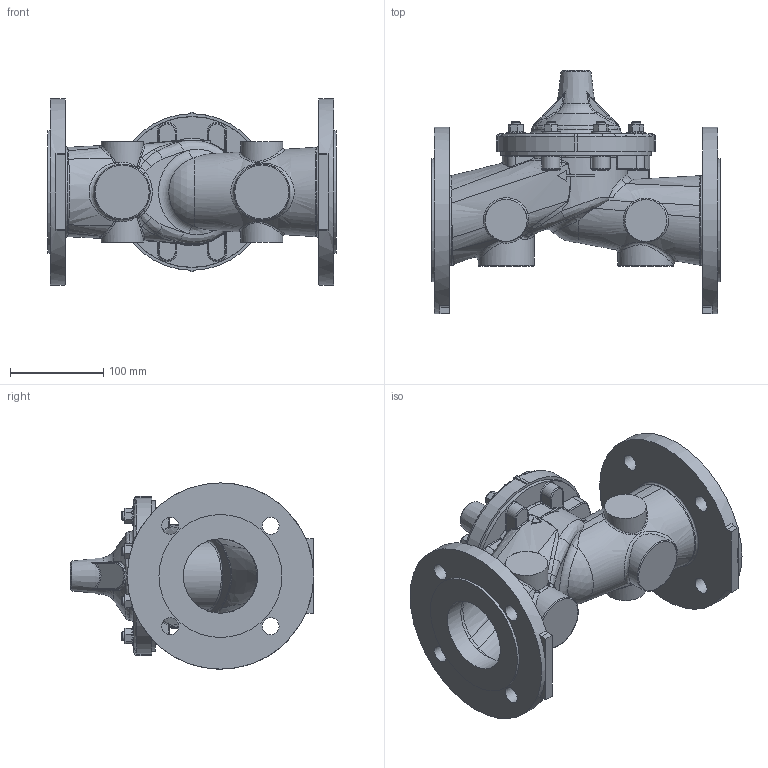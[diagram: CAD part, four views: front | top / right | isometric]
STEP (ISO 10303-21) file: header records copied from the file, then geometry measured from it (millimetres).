
FILE_DESCRIPTION(/* description */ (''),/* implementation_level */ '2;1');
FILE_NAME(/* name */ 'G:\Doc_Liberes\SymbolesCAD\Modeles_3D\FichierSTP\VanneDeBase\NGE080-150RF.stp',/* time_stamp */ '2023-08-18T11:00:10+02:00',/* author */ ('theo'),/* organization */ (''),/* preprocessor_version */ 'ST-DEVELOPER v18.1',/* originating_system */ 'Autodesk Inventor 2022',/* authorisation */ '');
FILE_SCHEMA (('AUTOMOTIVE_DESIGN { 1 0 10303 214 3 1 1 }'));
Products named in the file (1): NGE080-150RF_Simplifier_1
Bounding box: 310 x 261.15 x 200 mm (x, y, z)
Volume: 2245922.3 mm3; surface area: 425105.7 mm2
Topology: 1 solids, 1 shells, 1348 faces, 3524 edges, 2233 vertices
Faces by surface type: plane 557, bspline 379, cone 172, cylinder 147, torus 90, sphere 3
Full cylindrical faces by diameter (mm): 9.525 x16, 18 x8, 20.637 x8, 27 x1, 45 x2, 60 x2, 73 x1, 76 x1, 78.87 x1, 78.9 x1, 80 x2, 96 x1, 132 x2, 161.75 x1, 162 x1, 200 x2
Entity records: 55058 total; most frequent: CARTESIAN_POINT 25110, ORIENTED_EDGE 7010, DIRECTION 5058, EDGE_CURVE 3505, VERTEX_POINT 2233, AXIS2_PLACEMENT_3D 1891, EDGE_LOOP 1460, FACE_OUTER_BOUND 1348
